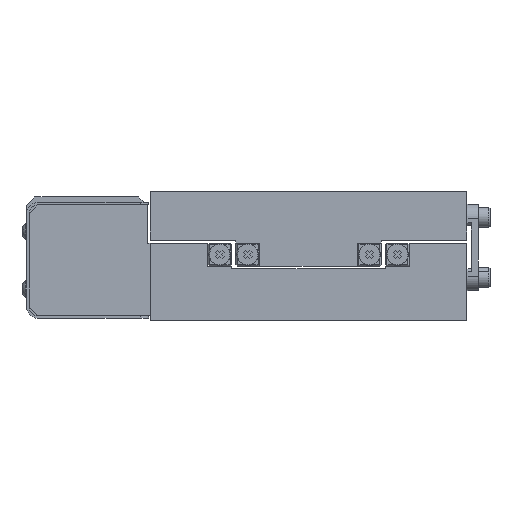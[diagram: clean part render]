
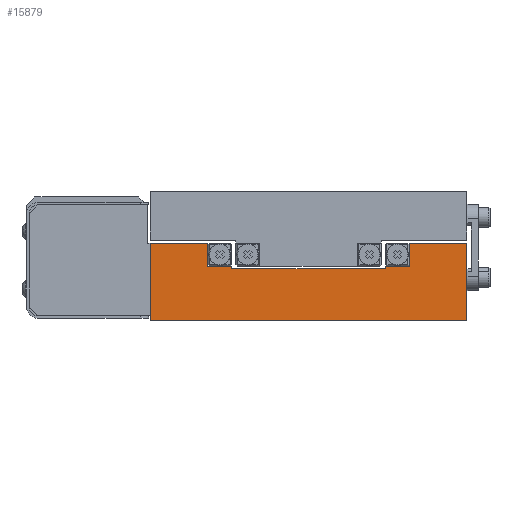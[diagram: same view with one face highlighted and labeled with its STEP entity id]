
A CAD part, front view. The second image highlights one B-rep face of the part: STEP entity #15879.
In plain terms, the highlighted planar face has unit normal (0, -1, 0).
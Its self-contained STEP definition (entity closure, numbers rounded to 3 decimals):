
#515 = VECTOR ( 'NONE', #40824, 1000. ) ;
#1262 = CARTESIAN_POINT ( 'NONE',  ( 55., -75., 27. ) ) ;
#1457 = VECTOR ( 'NONE', #10154, 1000. ) ;
#2480 = VERTEX_POINT ( 'NONE', #50865 ) ;
#2594 = ORIENTED_EDGE ( 'NONE', *, *, #39349, .F. ) ;
#3088 = EDGE_CURVE ( 'NONE', #38798, #29678, #57390, .T. ) ;
#3572 = DIRECTION ( 'NONE',  ( 1., 0., 0. ) ) ;
#4269 = LINE ( 'NONE', #9566, #1457 ) ;
#4717 = ORIENTED_EDGE ( 'NONE', *, *, #10938, .F. ) ;
#6038 = LINE ( 'NONE', #51985, #50529 ) ;
#6074 = EDGE_CURVE ( 'NONE', #39125, #35148, #30331, .T. ) ;
#6382 = DIRECTION ( 'NONE',  ( 0., 0., -1. ) ) ;
#7951 = VECTOR ( 'NONE', #15721, 1000. ) ;
#8166 = VECTOR ( 'NONE', #6382, 1000. ) ;
#8291 = CARTESIAN_POINT ( 'NONE',  ( -55., -75., 27. ) ) ;
#8776 = EDGE_LOOP ( 'NONE', ( #37092, #55116, #16467, #56231, #31003, #2594, #46850, #54402, #4717, #42775, #21120, #22262 ) ) ;
#8913 = CARTESIAN_POINT ( 'NONE',  ( -35., -75., 27. ) ) ;
#9566 = CARTESIAN_POINT ( 'NONE',  ( -55., -75., 27. ) ) ;
#10154 = DIRECTION ( 'NONE',  ( 1., 0., 0. ) ) ;
#10938 = EDGE_CURVE ( 'NONE', #28050, #53788, #27604, .T. ) ;
#11473 = VECTOR ( 'NONE', #51480, 1000. ) ;
#12582 = CARTESIAN_POINT ( 'NONE',  ( 35., -75., 27. ) ) ;
#12966 = EDGE_CURVE ( 'NONE', #29678, #43615, #55176, .T. ) ;
#14653 = DIRECTION ( 'NONE',  ( 1., 0., 0. ) ) ;
#15225 = CARTESIAN_POINT ( 'NONE',  ( -35., -75., 19. ) ) ;
#15721 = DIRECTION ( 'NONE',  ( 1., 0., 0. ) ) ;
#15879 = ADVANCED_FACE ( 'NONE', ( #41820 ), #30509, .F. ) ;
#16467 = ORIENTED_EDGE ( 'NONE', *, *, #47433, .F. ) ;
#17156 = DIRECTION ( 'NONE',  ( 0., 0., 1. ) ) ;
#18005 = LINE ( 'NONE', #30195, #25649 ) ;
#18136 = EDGE_CURVE ( 'NONE', #43140, #39125, #4269, .T. ) ;
#19515 = CARTESIAN_POINT ( 'NONE',  ( -26.7, -75., 19. ) ) ;
#21120 = ORIENTED_EDGE ( 'NONE', *, *, #51517, .T. ) ;
#21408 = CARTESIAN_POINT ( 'NONE',  ( 26.7, -75., 18. ) ) ;
#21519 = EDGE_CURVE ( 'NONE', #28050, #49571, #49087, .T. ) ;
#22262 = ORIENTED_EDGE ( 'NONE', *, *, #6074, .F. ) ;
#24316 = CARTESIAN_POINT ( 'NONE',  ( -35., -75., 27. ) ) ;
#25649 = VECTOR ( 'NONE', #52821, 1000. ) ;
#25973 = LINE ( 'NONE', #42299, #7951 ) ;
#27597 = LINE ( 'NONE', #19515, #48502 ) ;
#27604 = LINE ( 'NONE', #36393, #515 ) ;
#27950 = VERTEX_POINT ( 'NONE', #30170 ) ;
#28050 = VERTEX_POINT ( 'NONE', #8291 ) ;
#28325 = CARTESIAN_POINT ( 'NONE',  ( 26.7, -75., 18. ) ) ;
#28968 = DIRECTION ( 'NONE',  ( 0., 0., -1. ) ) ;
#29277 = CARTESIAN_POINT ( 'NONE',  ( 35., -75., 19. ) ) ;
#29678 = VERTEX_POINT ( 'NONE', #28325 ) ;
#30148 = CARTESIAN_POINT ( 'NONE',  ( -26.7, -75., 18. ) ) ;
#30170 = CARTESIAN_POINT ( 'NONE',  ( -26.7, -75., 19. ) ) ;
#30195 = CARTESIAN_POINT ( 'NONE',  ( 35., -75., 19. ) ) ;
#30331 = LINE ( 'NONE', #50695, #8166 ) ;
#30509 = PLANE ( 'NONE',  #37042 ) ;
#30801 = CARTESIAN_POINT ( 'NONE',  ( 55., -75., 0. ) ) ;
#31003 = ORIENTED_EDGE ( 'NONE', *, *, #3088, .F. ) ;
#35148 = VERTEX_POINT ( 'NONE', #30801 ) ;
#36393 = CARTESIAN_POINT ( 'NONE',  ( -55., -75., 27. ) ) ;
#37042 = AXIS2_PLACEMENT_3D ( 'NONE', #44383, #48304, #48687 ) ;
#37061 = CARTESIAN_POINT ( 'NONE',  ( -26.7, -75., 18. ) ) ;
#37092 = ORIENTED_EDGE ( 'NONE', *, *, #18136, .F. ) ;
#38219 = VECTOR ( 'NONE', #28968, 1000. ) ;
#38798 = VERTEX_POINT ( 'NONE', #37061 ) ;
#39125 = VERTEX_POINT ( 'NONE', #1262 ) ;
#39349 = EDGE_CURVE ( 'NONE', #27950, #38798, #27597, .T. ) ;
#40497 = EDGE_CURVE ( 'NONE', #52300, #43140, #18005, .T. ) ;
#40824 = DIRECTION ( 'NONE',  ( 1., 0., 0. ) ) ;
#41820 = FACE_OUTER_BOUND ( 'NONE', #8776, .T. ) ;
#41949 = VECTOR ( 'NONE', #14653, 1000. ) ;
#42299 = CARTESIAN_POINT ( 'NONE',  ( -55., -75., 0. ) ) ;
#42775 = ORIENTED_EDGE ( 'NONE', *, *, #21519, .T. ) ;
#43140 = VERTEX_POINT ( 'NONE', #12582 ) ;
#43281 = VECTOR ( 'NONE', #17156, 1000. ) ;
#43357 = LINE ( 'NONE', #15225, #41949 ) ;
#43615 = VERTEX_POINT ( 'NONE', #53139 ) ;
#44100 = VECTOR ( 'NONE', #57695, 1000. ) ;
#44383 = CARTESIAN_POINT ( 'NONE',  ( -55., -75., 27. ) ) ;
#44732 = EDGE_CURVE ( 'NONE', #2480, #27950, #43357, .T. ) ;
#46191 = EDGE_CURVE ( 'NONE', #53788, #2480, #50097, .T. ) ;
#46696 = CARTESIAN_POINT ( 'NONE',  ( -55., -75., 0. ) ) ;
#46850 = ORIENTED_EDGE ( 'NONE', *, *, #44732, .F. ) ;
#47433 = EDGE_CURVE ( 'NONE', #43615, #52300, #6038, .T. ) ;
#48304 = DIRECTION ( 'NONE',  ( 0., 1., 0. ) ) ;
#48502 = VECTOR ( 'NONE', #50628, 1000. ) ;
#48687 = DIRECTION ( 'NONE',  ( 0., 0., 1. ) ) ;
#49087 = LINE ( 'NONE', #51300, #11473 ) ;
#49571 = VERTEX_POINT ( 'NONE', #46696 ) ;
#50097 = LINE ( 'NONE', #24316, #38219 ) ;
#50529 = VECTOR ( 'NONE', #3572, 1000. ) ;
#50628 = DIRECTION ( 'NONE',  ( 0., 0., -1. ) ) ;
#50695 = CARTESIAN_POINT ( 'NONE',  ( 55., -75., 27. ) ) ;
#50865 = CARTESIAN_POINT ( 'NONE',  ( -35., -75., 19. ) ) ;
#51300 = CARTESIAN_POINT ( 'NONE',  ( -55., -75., 27. ) ) ;
#51480 = DIRECTION ( 'NONE',  ( 0., 0., -1. ) ) ;
#51517 = EDGE_CURVE ( 'NONE', #49571, #35148, #25973, .T. ) ;
#51985 = CARTESIAN_POINT ( 'NONE',  ( 26.7, -75., 19. ) ) ;
#52300 = VERTEX_POINT ( 'NONE', #29277 ) ;
#52821 = DIRECTION ( 'NONE',  ( 0., 0., 1. ) ) ;
#53139 = CARTESIAN_POINT ( 'NONE',  ( 26.7, -75., 19. ) ) ;
#53788 = VERTEX_POINT ( 'NONE', #8913 ) ;
#54402 = ORIENTED_EDGE ( 'NONE', *, *, #46191, .F. ) ;
#55116 = ORIENTED_EDGE ( 'NONE', *, *, #40497, .F. ) ;
#55176 = LINE ( 'NONE', #21408, #43281 ) ;
#56231 = ORIENTED_EDGE ( 'NONE', *, *, #12966, .F. ) ;
#57390 = LINE ( 'NONE', #30148, #44100 ) ;
#57695 = DIRECTION ( 'NONE',  ( 1., 0., 0. ) ) ;
